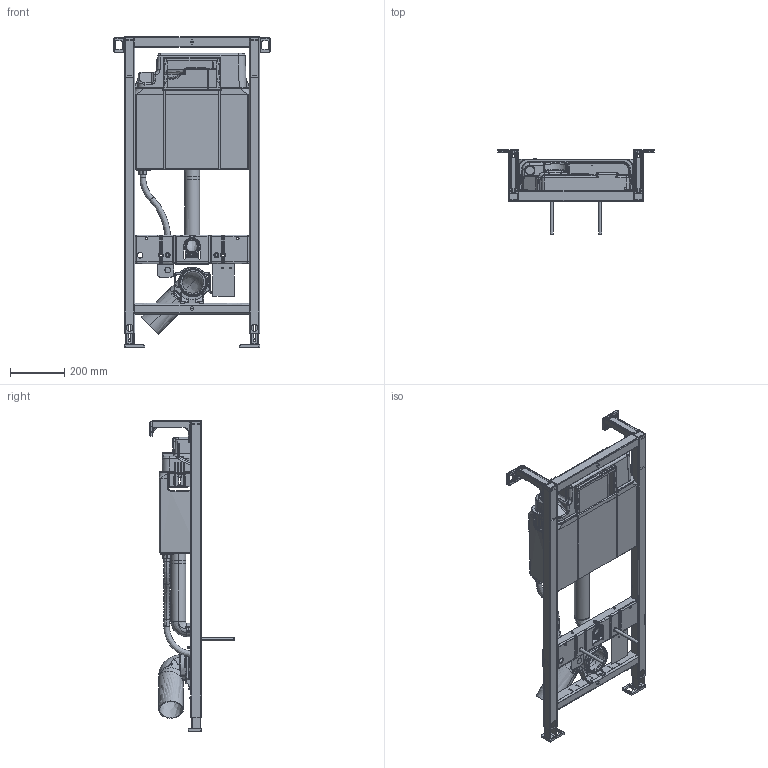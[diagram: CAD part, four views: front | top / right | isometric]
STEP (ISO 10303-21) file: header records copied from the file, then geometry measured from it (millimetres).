
FILE_DESCRIPTION(/* description */ (''),/* implementation_level */ '2;1');
FILE_NAME(/* name */ 'WD1013',/* time_stamp */ '2021-06-29T09:44:56+02:00',/* author */ (''),/* organization */ (''),/* preprocessor_version */ 'ST-DEVELOPER v15',/* originating_system */ '',/* authorisation */ '');
FILE_SCHEMA (('AUTOMOTIVE_DESIGN'));
Products named in the file (2): Document; Block 01
Assembly tree (1 placements, depth 2):
  Document
    Block 01
Bounding box: 578.39 x 311.5 x 1147.5 mm (x, y, z)
Volume: 2164824.6 mm3; surface area: 2433788.2 mm2
Topology: 31 solids, 40 shells, 7387 faces, 19385 edges, 11987 vertices
Faces by surface type: plane 3699, bspline 3688
Entity records: 335562 total; most frequent: CARTESIAN_POINT 219322, ORIENTED_EDGE 38326, EDGE_CURVE 19260, B_SPLINE_CURVE_WITH_KNOTS 12440, VERTEX_POINT 11987, EDGE_LOOP 7727, ADVANCED_FACE 7387, FACE_OUTER_BOUND 7387
